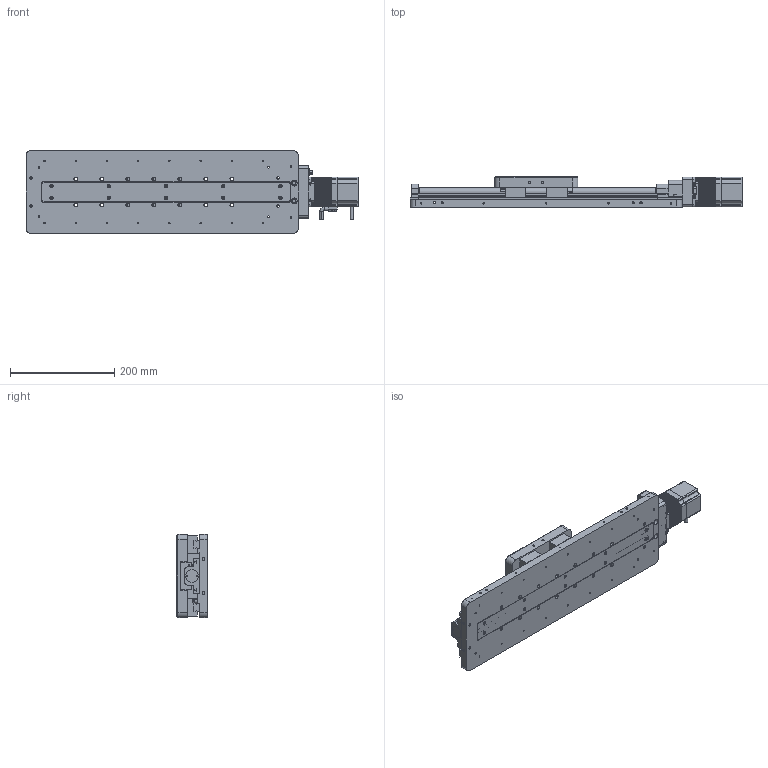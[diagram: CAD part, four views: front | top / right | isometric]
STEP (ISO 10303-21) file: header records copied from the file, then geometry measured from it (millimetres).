
FILE_DESCRIPTION (( 'STEP AP203' ), '1' );
FILE_NAME ('7STA09300Cµç¶¯Æ½ÒÆÌ¨.STEP', '2022-04-14T05:23:33', ( '' ), ( '' ), 'SwSTEP 2.0', 'SolidWorks 2018', '' );
FILE_SCHEMA (( 'CONFIG_CONTROL_DESIGN' ));
Length unit declared in the file: millimetre
Products named in the file (1): 7STA09300C萇雄す痄怢
Bounding box: 638 x 58 x 160 mm (x, y, z)
Surface area: 427709.8 mm2 (no closed solid volume)
Topology: 0 solids, 439 shells, 2611 faces, 8961 edges, 6701 vertices
Faces by surface type: cylinder 1322, plane 1121, torus 90, cone 40, sphere 28, bspline 10
Entity records: 97173 total; most frequent: CARTESIAN_POINT 19962, DIRECTION 17332, ORIENTED_EDGE 12466, EDGE_CURVE 8893, VERTEX_POINT 6669, AXIS2_PLACEMENT_3D 6067, VECTOR 5198, LINE 5198
